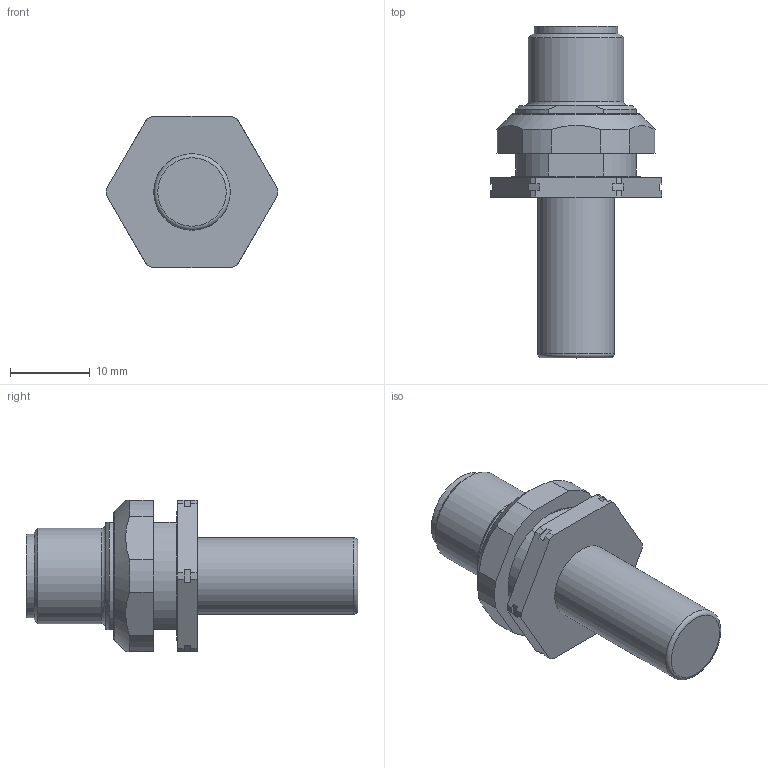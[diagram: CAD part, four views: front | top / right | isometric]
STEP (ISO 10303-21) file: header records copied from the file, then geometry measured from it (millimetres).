
FILE_DESCRIPTION (( 'STEP AP203' ), '1' );
FILE_NAME ('FSFD-Overmold.step', '2019-05-02T20:34:42', ( '' ), ( '' ), 'SwSTEP 2.0', 'SolidWorks 2017', '' );
FILE_SCHEMA (( 'CONFIG_CONTROL_DESIGN' ));
Length unit declared in the file: millimetre
Products named in the file (1): FSFD-Overmold
Bounding box: 21.5 x 41.7 x 19 mm (x, y, z)
Volume: 4954.7 mm3; surface area: 3295.7 mm2
Topology: 1 solids, 2 shells, 96 faces, 250 edges, 162 vertices
Faces by surface type: plane 59, cylinder 21, cone 11, torus 5
Full cylindrical faces by diameter (mm): 8.3 x1, 9.6 x2, 9.9 x1, 10 x1, 10.5 x1, 12 x1, 15.6 x1
Entity records: 2885 total; most frequent: CARTESIAN_POINT 543, DIRECTION 460, ORIENTED_EDGE 452, EDGE_CURVE 226, VERTEX_POINT 156, AXIS2_PLACEMENT_3D 155, LINE 150, VECTOR 150
